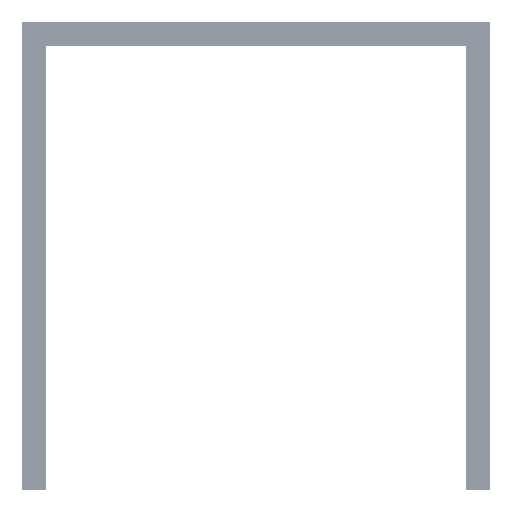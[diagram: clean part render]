
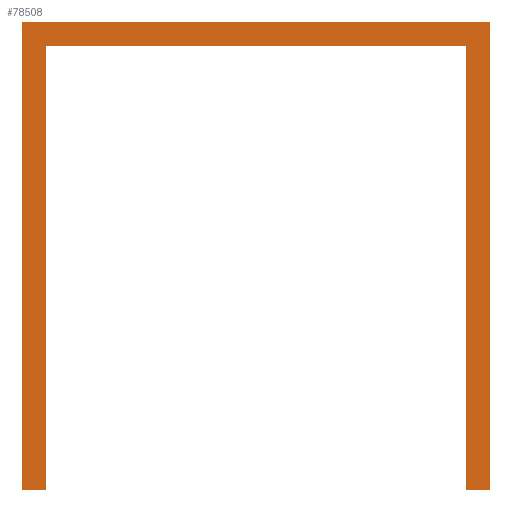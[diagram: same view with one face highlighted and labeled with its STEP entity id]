
A CAD part, front view. The second image highlights one B-rep face of the part: STEP entity #78508.
In plain terms, the highlighted planar face has unit normal (0, -1, 0).
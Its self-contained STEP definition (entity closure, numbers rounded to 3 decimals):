
#1183 = LINE ( 'NONE', #5327, #88988 ) ;
#2406 = VERTEX_POINT ( 'NONE', #82400 ) ;
#3172 = VERTEX_POINT ( 'NONE', #34799 ) ;
#3933 = DIRECTION ( 'NONE',  ( 1., 0., 0. ) ) ;
#5327 = CARTESIAN_POINT ( 'NONE',  ( -21.5, 0., 0. ) ) ;
#10290 = VECTOR ( 'NONE', #39328, 1000. ) ;
#12007 = VECTOR ( 'NONE', #38980, 1000. ) ;
#13075 = AXIS2_PLACEMENT_3D ( 'NONE', #16969, #17302, #55248 ) ;
#15816 = VECTOR ( 'NONE', #57216, 1000. ) ;
#16969 = CARTESIAN_POINT ( 'NONE',  ( 0., 0., 0. ) ) ;
#17302 = DIRECTION ( 'NONE',  ( 0., -1., 0. ) ) ;
#22184 = VECTOR ( 'NONE', #67788, 1000. ) ;
#23693 = VECTOR ( 'NONE', #88637, 1000. ) ;
#25042 = EDGE_CURVE ( 'NONE', #61875, #77222, #1183, .T. ) ;
#26544 = EDGE_CURVE ( 'NONE', #3172, #73003, #85145, .T. ) ;
#26656 = EDGE_CURVE ( 'NONE', #73003, #71610, #40659, .T. ) ;
#28280 = LINE ( 'NONE', #93103, #10290 ) ;
#28958 = LINE ( 'NONE', #83577, #52946 ) ;
#30110 = CARTESIAN_POINT ( 'NONE',  ( 24., 0., 2.5 ) ) ;
#33620 = ORIENTED_EDGE ( 'NONE', *, *, #26656, .F. ) ;
#33834 = EDGE_CURVE ( 'NONE', #71610, #89436, #56527, .T. ) ;
#34799 = CARTESIAN_POINT ( 'NONE',  ( -24., 0., 2.5 ) ) ;
#34885 = EDGE_CURVE ( 'NONE', #89436, #61875, #28280, .T. ) ;
#38980 = DIRECTION ( 'NONE',  ( -1., 0., 0. ) ) ;
#39328 = DIRECTION ( 'NONE',  ( 0., 0., 1. ) ) ;
#40659 = LINE ( 'NONE', #65078, #23693 ) ;
#40800 = CARTESIAN_POINT ( 'NONE',  ( 24., 0., -45.5 ) ) ;
#42001 = FACE_OUTER_BOUND ( 'NONE', #82363, .T. ) ;
#42416 = CARTESIAN_POINT ( 'NONE',  ( -21.5, 0., -45.5 ) ) ;
#42907 = CARTESIAN_POINT ( 'NONE',  ( 21.5, 0., -45.5 ) ) ;
#43598 = DIRECTION ( 'NONE',  ( -1., 0., 0. ) ) ;
#45193 = DIRECTION ( 'NONE',  ( 0., 0., 1. ) ) ;
#45532 = CARTESIAN_POINT ( 'NONE',  ( -21.5, 0., 0. ) ) ;
#46054 = EDGE_CURVE ( 'NONE', #77222, #2406, #93133, .T. ) ;
#50373 = CARTESIAN_POINT ( 'NONE',  ( 21.5, 0., 0. ) ) ;
#50607 = CARTESIAN_POINT ( 'NONE',  ( 24., 0., 2.5 ) ) ;
#51035 = EDGE_CURVE ( 'NONE', #2406, #54021, #57826, .T. ) ;
#52946 = VECTOR ( 'NONE', #45193, 1000. ) ;
#54007 = EDGE_CURVE ( 'NONE', #54021, #3172, #28958, .T. ) ;
#54021 = VERTEX_POINT ( 'NONE', #54280 ) ;
#54280 = CARTESIAN_POINT ( 'NONE',  ( -24., 0., -45.5 ) ) ;
#55248 = DIRECTION ( 'NONE',  ( 0., 0., -1. ) ) ;
#56527 = LINE ( 'NONE', #98155, #12007 ) ;
#57216 = DIRECTION ( 'NONE',  ( -1., 0., 0. ) ) ;
#57826 = LINE ( 'NONE', #42416, #15816 ) ;
#61875 = VERTEX_POINT ( 'NONE', #50373 ) ;
#65078 = CARTESIAN_POINT ( 'NONE',  ( 24., 0., -45.5 ) ) ;
#65624 = ORIENTED_EDGE ( 'NONE', *, *, #51035, .F. ) ;
#65963 = ORIENTED_EDGE ( 'NONE', *, *, #33834, .F. ) ;
#66954 = VECTOR ( 'NONE', #3933, 1000. ) ;
#67788 = DIRECTION ( 'NONE',  ( 0., 0., -1. ) ) ;
#67930 = ORIENTED_EDGE ( 'NONE', *, *, #26544, .F. ) ;
#71610 = VERTEX_POINT ( 'NONE', #40800 ) ;
#73003 = VERTEX_POINT ( 'NONE', #30110 ) ;
#73155 = ORIENTED_EDGE ( 'NONE', *, *, #25042, .F. ) ;
#77222 = VERTEX_POINT ( 'NONE', #45532 ) ;
#78508 = ADVANCED_FACE ( 'NONE', ( #42001 ), #86900, .T. ) ;
#80851 = ORIENTED_EDGE ( 'NONE', *, *, #46054, .F. ) ;
#82363 = EDGE_LOOP ( 'NONE', ( #93276, #65963, #33620, #67930, #99732, #65624, #80851, #73155 ) ) ;
#82400 = CARTESIAN_POINT ( 'NONE',  ( -21.5, 0., -45.5 ) ) ;
#82963 = CARTESIAN_POINT ( 'NONE',  ( -21.5, 0., 0. ) ) ;
#83577 = CARTESIAN_POINT ( 'NONE',  ( -24., 0., -45.5 ) ) ;
#85145 = LINE ( 'NONE', #50607, #66954 ) ;
#86900 = PLANE ( 'NONE',  #13075 ) ;
#88637 = DIRECTION ( 'NONE',  ( 0., 0., -1. ) ) ;
#88988 = VECTOR ( 'NONE', #43598, 1000. ) ;
#89436 = VERTEX_POINT ( 'NONE', #42907 ) ;
#93103 = CARTESIAN_POINT ( 'NONE',  ( 21.5, 0., 0. ) ) ;
#93133 = LINE ( 'NONE', #82963, #22184 ) ;
#93276 = ORIENTED_EDGE ( 'NONE', *, *, #34885, .F. ) ;
#98155 = CARTESIAN_POINT ( 'NONE',  ( 21.5, 0., -45.5 ) ) ;
#99732 = ORIENTED_EDGE ( 'NONE', *, *, #54007, .F. ) ;
